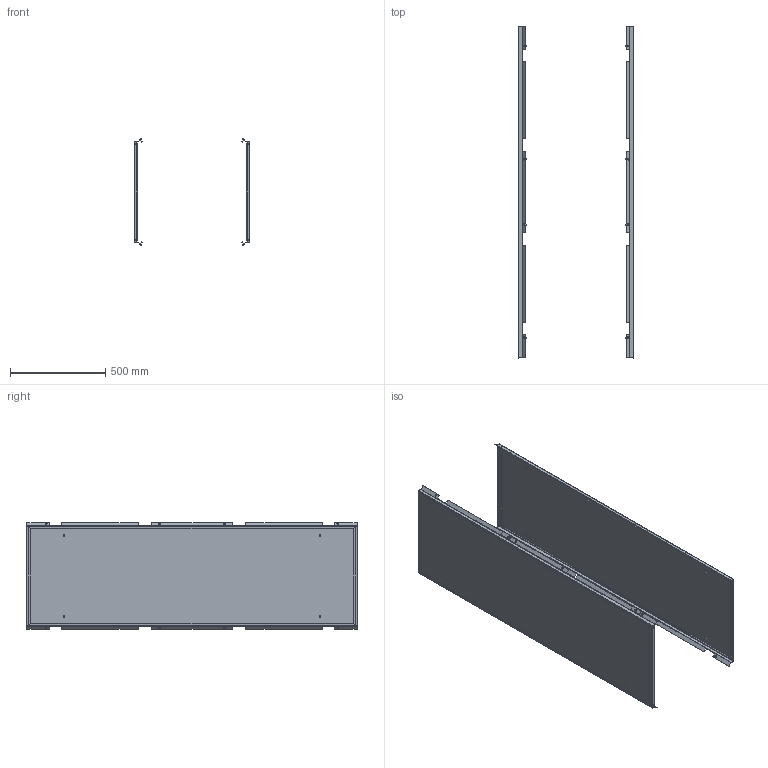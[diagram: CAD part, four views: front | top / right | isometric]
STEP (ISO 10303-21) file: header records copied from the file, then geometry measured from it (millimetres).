
FILE_DESCRIPTION (( 'STEP AP203' ), '1' );
FILE_NAME ('MA1.200.060618.20.00 AleSta-PS186 Áîêîâûå ïàíåëè AleSta 1800x600 (2 øò).STEP', '2025-02-19T14:42:30', ( '' ), ( '' ), 'SwSTEP 2.0', 'SolidWorks 2021', '' );
FILE_SCHEMA (( 'CONFIG_CONTROL_DESIGN' ));
Length unit declared in the file: millimetre
Products named in the file (6): MA1.200.060620.21.00 Ñòåíêà áîêîâàÿ 600x2000_1800å600; Óïëîòíèòåëü ïàíåëè íèæíåé_˜ƒ=600; Âèíò ñàìîíàðåçàþùèé ñ ïîòàéíîé ãîëîâêîé Ì5x16 DIN 7500 M TORX, êëàññ ïðî÷íîñòè 8.8, îöèíêîâàííàÿ ñòàëü_Œ5å16; Øïèëüêà Ì6õ12_˜¯¨«ìª  Œ6å12; MA1.200.060620.21.01 Ïîëîòíî ñòåíêè áîêîâîé 600õ2000_1800å600; MA1.200.060618.20.00 AleSta-PS186  Áîêîâûå ïàíåëè AleSta 1800x600 (2 øò)
Assembly tree (24 placements, depth 3):
  MA1.200.060618.20.00 AleSta-PS186  Áîêîâûå ïàíåëè AleSta 1800x600 (2 øò)
    MA1.200.060620.21.00 Ñòåíêà áîêîâàÿ 600x2000_1800å600  x2
      MA1.200.060620.21.01 Ïîëîòíî ñòåíêè áîêîâîé 600õ2000_1800å600
      Øïèëüêà Ì6õ12_˜¯¨«ìª  Œ6å12
      Óïëîòíèòåëü ïàíåëè íèæíåé_˜ƒ=600
    Âèíò ñàìîíàðåçàþùèé ñ ïîòàéíîé ãîëîâêîé Ì5x16 DIN 7500 M TORX, êëàññ ïðî÷íîñòè 8.8, îöèíêîâàííàÿ ñòàëü_Œ5å16  x16
Bounding box: 606 x 1745 x 560.73 mm (x, y, z)
Volume: 2712852.5 mm3; surface area: 4582388.5 mm2
Topology: 28 solids, 28 shells, 1116 faces, 2788 edges, 1784 vertices
Faces by surface type: cylinder 636, plane 368, cone 80, bspline 16, torus 16
Entity records: 8629 total; most frequent: CARTESIAN_POINT 1714, DIRECTION 1281, ORIENTED_EDGE 1158, EDGE_CURVE 579, AXIS2_PLACEMENT_3D 475, VERTEX_POINT 360, LINE 331, VECTOR 331
